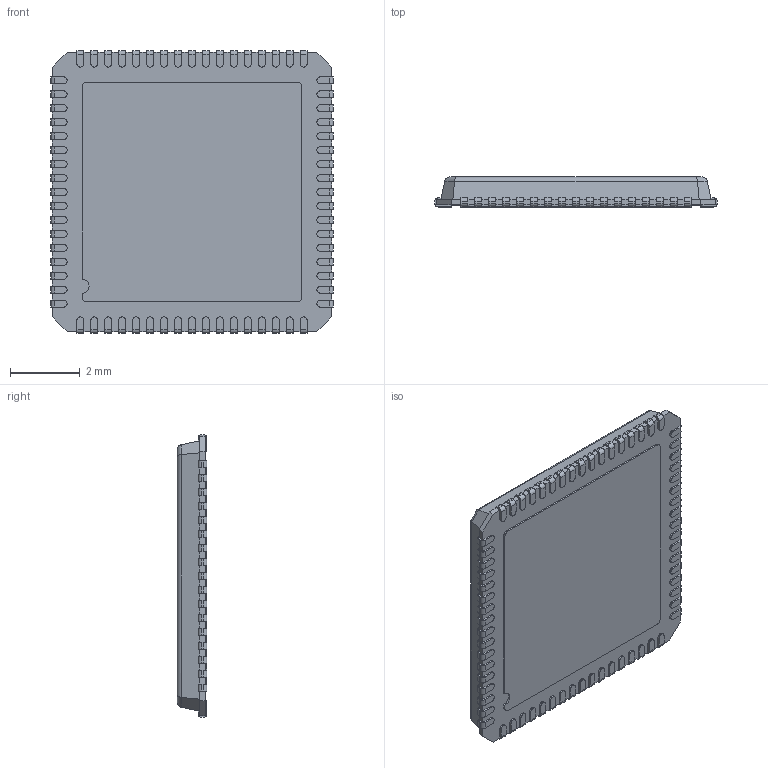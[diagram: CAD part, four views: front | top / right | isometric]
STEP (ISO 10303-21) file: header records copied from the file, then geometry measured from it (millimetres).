
FILE_DESCRIPTION (( 'STEP AP214' ), '1' );
FILE_NAME ('QFN40P800X800-68.STEP', '2011-01-31T09:26:27', ( 'vpeshkov' ), ( 'licard' ), 'SwSTEP 2.0', 'SolidWorks 2009', '' );
FILE_SCHEMA (( 'AUTOMOTIVE_DESIGN' ));
Length unit declared in the file: millimetre
Products named in the file (1): QFN40P800X800-68
Bounding box: 8.1 x 0.85 x 8.1 mm (x, y, z)
Volume: 49.5 mm3; surface area: 154.2 mm2
Topology: 1 solids, 1 shells, 791 faces, 2350 edges, 1564 vertices
Faces by surface type: plane 502, cylinder 289
Entity records: 33369 total; most frequent: CARTESIAN_POINT 4730, ORIENTED_EDGE 4700, DIRECTION 4488, EDGE_CURVE 2350, VECTOR 1780, LINE 1780, VERTEX_POINT 1564, AXIS2_PLACEMENT_3D 1354
